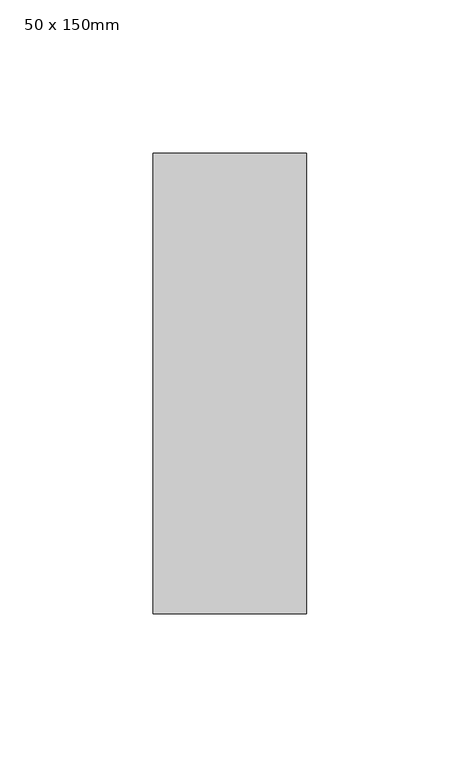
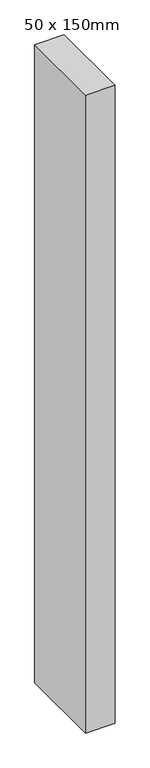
"""IFC4 building model written with IfcOpenShell, lengths in millimetres: member geometry, 矩形豎框 : 50 x 150mm."""

import ifcopenshell
import ifcopenshell.guid

model = None  # the IFC model being written
_history = None  # IfcOwnerHistory: only IFC2X3 demands one
_inside = {}  # id of a spatial element -> (the spatial element, [elements in it])
_under = {}  # id of a project, library or spatial element -> (it, [spatial elements below it])
_declared = {}  # id of a project -> (the project, [libraries it declares])
_typed = {}  # id of a type object -> (the type object, [elements of that type])
_made_of = {}  # id of a material, layer set ... -> (it, [elements and type objects made of it])


def new_model(schema):
    """Start an empty IFC model of exactly this schema.

    Asked for "IFC4X3", IfcOpenShell would pick the latest addendum, in which some entities
    have other attributes; the version numbers below select the first issue.
    IFC2X3 requires an IfcOwnerHistory on every rooted entity: one is made here for all.
    """
    global model, _history
    if schema == "IFC4X3":
        model = ifcopenshell.file(schema_version=(4, 3, 0, 0))
    else:
        model = ifcopenshell.file(schema=schema)
    _inside.clear()
    _under.clear()
    _declared.clear()
    _typed.clear()
    _made_of.clear()
    _history = None
    if model.schema == "IFC2X3":
        org = make("IfcOrganization", Name="unknown")
        user = make(
            "IfcPersonAndOrganization",
            ThePerson=make("IfcPerson", FamilyName="unknown"),
            TheOrganization=org,
        )
        app = make(
            "IfcApplication",
            ApplicationDeveloper=org,
            Version="unknown",
            ApplicationFullName="unknown",
            ApplicationIdentifier="unknown",
        )
        _history = make(
            "IfcOwnerHistory",
            OwningUser=user,
            OwningApplication=app,
            ChangeAction="ADDED",
            CreationDate=0,
        )
    return model


def make(cls, **values):
    """One entity of the class cls with the attributes given. An attribute that is None is left unset."""
    return model.create_entity(
        cls, **{name: value for name, value in values.items() if value is not None}
    )


def rooted(cls, **values):
    """An entity with a GlobalId (a new one), such as an element, a storey or a relation."""
    return make(cls, GlobalId=ifcopenshell.guid.new(), OwnerHistory=_history, **values)


def si_unit(unit_type, name, prefix=None):
    """IfcSIUnit, for example si_unit("LENGTHUNIT", "METRE", prefix="MILLI")."""
    return make("IfcSIUnit", UnitType=unit_type, Prefix=prefix, Name=name)


def assignment(units):
    """IfcUnitAssignment: the units of a project."""
    return None if units is None else make("IfcUnitAssignment", Units=units)


def point(xyz):
    """IfcCartesianPoint."""
    return None if xyz is None else make("IfcCartesianPoint", Coordinates=xyz)


def direction(xyz):
    """IfcDirection."""
    return None if xyz is None else make("IfcDirection", DirectionRatios=xyz)


def frame(location, z_axis=None, x_axis=None):
    """IfcAxis2Placement3D, a coordinate frame: its origin and axes. An axis left out is left unset."""
    return make(
        "IfcAxis2Placement3D",
        Location=point(location),
        Axis=direction(z_axis),
        RefDirection=direction(x_axis),
    )


def origin():
    """The frame at (0, 0, 0) with its axes left unset."""
    return frame((0.0, 0.0, 0.0))


def place(relative_to, where):
    """IfcLocalPlacement: puts the frame where relative to a parent placement (None: the world)."""
    return make(
        "IfcLocalPlacement", PlacementRelTo=relative_to, RelativePlacement=where
    )


def context(
    kind, dimensions, precision=None, world=None, true_north=None, identifier=None
):
    """IfcGeometricRepresentationContext, for example the 3D "Model" context."""
    return make(
        "IfcGeometricRepresentationContext",
        ContextIdentifier=identifier,
        ContextType=kind,
        CoordinateSpaceDimension=dimensions,
        Precision=precision,
        WorldCoordinateSystem=world,
        TrueNorth=true_north,
    )


def project(units=None, contexts=None):
    """IfcProject with its units and contexts."""
    return rooted(
        "IfcProject",
        Name="project",
        RepresentationContexts=contexts,
        UnitsInContext=assignment(units),
    )


def spatial(cls, under=None, at=None, **own):
    """A site, building, storey or space (cls), placed at a placement, below another one or the project."""
    s = rooted(cls, ObjectPlacement=at, **own)
    if under is not None:
        _under.setdefault(under.id(), (under, []))[1].append(s)
    return s


def polyline(points):
    """IfcPolyline through the points."""
    return make("IfcPolyline", Points=[point(p) for p in points])


def outline(outer, holes=None, kind="AREA"):
    """IfcArbitraryClosedProfileDef: a profile drawn as a closed curve; with holes, ...WithVoids."""
    if holes is None:
        return make("IfcArbitraryClosedProfileDef", ProfileType=kind, OuterCurve=outer)
    return make(
        "IfcArbitraryProfileDefWithVoids",
        ProfileType=kind,
        OuterCurve=outer,
        InnerCurves=holes,
    )


def extrude(swept, where, along, depth):
    """IfcExtrudedAreaSolid: the profile swept, set in the frame where, extruded along a direction by depth."""
    return make(
        "IfcExtrudedAreaSolid",
        SweptArea=swept,
        Position=where,
        ExtrudedDirection=direction(along),
        Depth=depth,
    )


def shape(context_of_items, identifier, shape_type, items):
    """IfcShapeRepresentation: the items that make up one representation, for example the "Body"."""
    return make(
        "IfcShapeRepresentation",
        ContextOfItems=context_of_items,
        RepresentationIdentifier=identifier,
        RepresentationType=shape_type,
        Items=items,
    )


def source(mapping_origin, context_of_items, identifier, shape_type, items):
    """IfcRepresentationMap: a shape defined once, which mapped items show again and again."""
    return make(
        "IfcRepresentationMap",
        MappingOrigin=mapping_origin,
        MappedRepresentation=shape(context_of_items, identifier, shape_type, items),
    )


def transform(
    local_origin,
    x_axis=None,
    y_axis=None,
    z_axis=None,
    scale=None,
    scale2=None,
    scale3=None,
    uniform=True,
):
    """IfcCartesianTransformationOperator3D, or its non-uniform kind. x_axis, y_axis, z_axis: its Axis1, 2, 3."""
    if uniform:
        return make(
            "IfcCartesianTransformationOperator3D",
            Axis1=direction(x_axis),
            Axis2=direction(y_axis),
            LocalOrigin=point(local_origin),
            Scale=scale,
            Axis3=direction(z_axis),
        )
    return make(
        "IfcCartesianTransformationOperator3DnonUniform",
        Axis1=direction(x_axis),
        Axis2=direction(y_axis),
        LocalOrigin=point(local_origin),
        Scale=scale,
        Axis3=direction(z_axis),
        Scale2=scale2,
        Scale3=scale3,
    )


def mapped(mapping_source, mapping_target):
    """IfcMappedItem: shows the shape of a source again, moved by a transform."""
    return make(
        "IfcMappedItem", MappingSource=mapping_source, MappingTarget=mapping_target
    )


def made_of(thing, what):
    """Note that an element or type object is made of a material, layer set ...; save() writes the relation."""
    if what is not None:
        _made_of.setdefault(what.id(), (what, []))[1].append(thing)
    return thing


def element(
    cls,
    number,
    at=None,
    inside=None,
    cuts=None,
    type_object=None,
    material=None,
    context=None,
    identifier="Body",
    shape_type=None,
    held_by="IfcProductDefinitionShape",
    body=None,
    shapes=None,
    **own,
):
    """One element of the class cls, such as IfcWall. Its Tag is "e" and its number.

    at: its placement. inside: the storey or other place that contains it. cuts: it is an
    opening in that element (IfcRelVoidsElement). A single representation is given by context,
    identifier, shape_type and body (its items); several are given by shapes. held_by: the class
    of the entity that holds the representations. save() writes the other relations.
    """
    e = rooted(cls, Tag="e%d" % number, ObjectPlacement=at, **own)
    if body is not None:
        shapes = [shape(context, identifier, shape_type, body)]
    if shapes is not None:
        e.Representation = make(held_by, Representations=shapes)
    if inside is not None:
        _inside.setdefault(inside.id(), (inside, []))[1].append(e)
    if cuts is not None:
        rooted(
            "IfcRelVoidsElement", RelatingBuildingElement=cuts, RelatedOpeningElement=e
        )
    if type_object is not None:
        _typed.setdefault(type_object.id(), (type_object, []))[1].append(e)
    return made_of(e, material)


def aggregate(whole, parts):
    """IfcRelAggregates: a whole, such as a stair, and the parts it consists of."""
    return rooted("IfcRelAggregates", RelatingObject=whole, RelatedObjects=parts)


def save(model, path):
    """Write the relations noted so far, then the file.

    IfcRelAggregates (storeys below a building ...), IfcRelContainedInSpatialStructure (elements
    in a storey), IfcRelDefinesByType, IfcRelAssociatesMaterial and IfcRelDeclares: one each for
    every whole, place, type object, material and project.
    """
    for whole, parts in _under.values():
        aggregate(whole, parts)
    for where, things in _inside.values():
        rooted(
            "IfcRelContainedInSpatialStructure",
            RelatedElements=things,
            RelatingStructure=where,
        )
    for kind, things in _typed.values():
        rooted("IfcRelDefinesByType", RelatedObjects=things, RelatingType=kind)
    for what, things in _made_of.values():
        rooted("IfcRelAssociatesMaterial", RelatedObjects=things, RelatingMaterial=what)
    for by, libraries in _declared.values():
        rooted("IfcRelDeclares", RelatingContext=by, RelatedDefinitions=libraries)
    model.write(path)


def member_50_x_150mm_3cbe9fad(model_context):
    return source(origin(), model_context, "Body", "SweptSolid", [
        extrude(outline(polyline([(25.0, 75.0), (25.0, -75.0), (-25.0, -75.0), (-25.0, 75.0), (25.0, 75.0)])), frame((0.0, 0.0, -1147.6738463), z_axis=(0.0, 0.0, 1.0), x_axis=(1.0, 0.0, 0.0)), (0.0, 0.0, 1.0), 1147.6738463),
    ])


if __name__ == "__main__":
    model = new_model("IFC4")
    model_context = context("Model", 3, world=origin())
    ifc_project = project(units=[si_unit("LENGTHUNIT", "METRE", prefix="MILLI")], contexts=[model_context])
    site = spatial("IfcSite", under=ifc_project)
    building = spatial("IfcBuilding", under=site)
    placement = place(None, origin())
    member_50_x_150mm_shape = member_50_x_150mm_3cbe9fad(model_context)
    element("IfcMember", 1, ObjectType="矩形豎框 : 50 x 150mm", at=placement, inside=building, context=model_context, shape_type="MappedRepresentation", body=[
        mapped(member_50_x_150mm_shape, transform((0.0, 0.0, 0.0), x_axis=(1.0, 0.0, 0.0), y_axis=(0.0, 1.0, 0.0), z_axis=(0.0, 0.0, 1.0))),
    ])
    save(model, "model.ifc")
